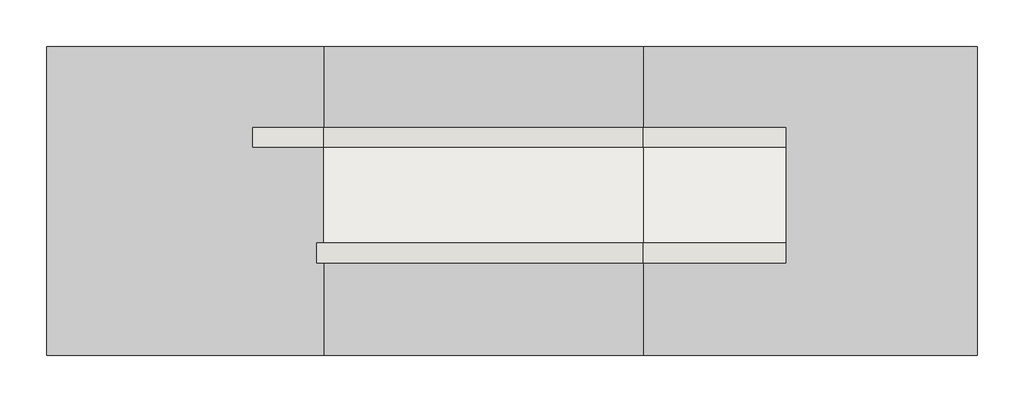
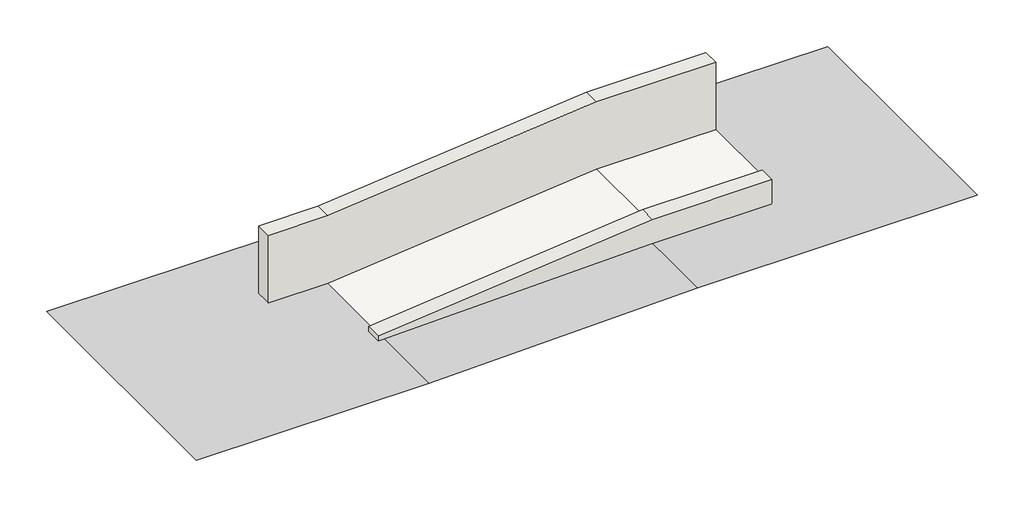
# One storey: 2 walls, 1 proxy, 1 slab.
"""IFC4 building model written with IfcOpenShell, lengths in millimetres."""

from ifc_helpers import new_model, si_unit, frame, origin, place, context, project, spatial, polyline, outline, extrude, triangles, element, save

model = new_model("IFC4")

# Units and contexts
model_context = context("Model", 3, world=origin())
ifc_project = project(units=[si_unit("LENGTHUNIT", "METRE", prefix="MILLI")], contexts=[model_context])

# Site, building, storey
site = spatial("IfcSite", under=ifc_project)
building = spatial("IfcBuilding", under=site)
storey = spatial("IfcBuildingStorey", under=building, Name="标高 1", Elevation=0.0)

# Proxy
placement = place(None, origin())
element("IfcBuildingElementProxy", 1, Name="Building Element Proxy", at=placement, inside=storey, context=model_context, shape_type="Tessellation", body=[
    triangles([(-1081.7579533, 5753.5092773, -329.999988), (-1081.7579533, 1403.5093895, -329.999988), (3618.2419373, 1403.5093895, -329.999988), (3618.2419373, 5753.5092773, -329.999988), (-5581.7581329, 5753.5092773, -450.0000034), (-5581.7581329, 1403.5093895, -450.0000034), (-9481.757872, 1403.5093895, -450.0000034), (-9481.757872, 5753.5092773, -450.0000034)], [[7, 6, 5], [4, 1, 3], [2, 1, 5], [5, 8, 7], [6, 2, 5], [2, 3, 1]], closed=False),
])

# Slab
element("IfcSlab", 2, ObjectType="坡道-330mm", at=placement, inside=storey, context=model_context, shape_type="SweptSolid", body=[
    extrude(outline(polyline([(-330.0, 918.2420685), (0.0, 918.2420685), (0.0, -1081.7579315), (-450.0, -5581.7579315), (-780.0, -5581.7579315), (-330.0, -1081.7579315), (-330.0, 918.2420685)])), frame((0.0, 2983.5094486, 0.0), z_axis=(0.0, 1.0, 0.0), x_axis=(0.0, 0.0, 1.0)), (0.0, 0.0, 1.0), 1350.0),
])

# Walls
element("IfcWall", 3, ObjectType="280mm墙体", at=placement, inside=storey, context=model_context, shape_type="SweptSolid", body=[
    extrude(outline(polyline([(1200.0, 918.2420685), (1200.0, -1081.7579315), (750.0, -5581.7579315), (750.0, -6581.7579315), (-450.0, -6581.7579315), (-450.0, -5581.7579315), (-330.0, -1081.7579315), (-330.0, 918.2420685), (1200.0, 918.2420685)])), frame((0.0, 4333.5094486, 0.0), z_axis=(0.0, 1.0, 0.0), x_axis=(0.0, 0.0, 1.0)), (0.0, 0.0, 1.0), 280.0),
])
element("IfcWall", 4, ObjectType="280mm墙体", at=placement, inside=storey, context=model_context, shape_type="SweptSolid", body=[
    extrude(outline(polyline([(100.0, 918.2420685), (100.0, -1086.7454936), (-359.5012438, -5681.7579315), (-450.0, -5681.7579315), (-450.0, -5581.7579315), (-330.0, -1081.7579315), (-330.0, 918.2420685), (100.0, 918.2420685)])), frame((0.0, 2703.5094486, 0.0), z_axis=(0.0, 1.0, 0.0), x_axis=(0.0, 0.0, 1.0)), (0.0, 0.0, 1.0), 280.0),
])

save(model, "model.ifc")
